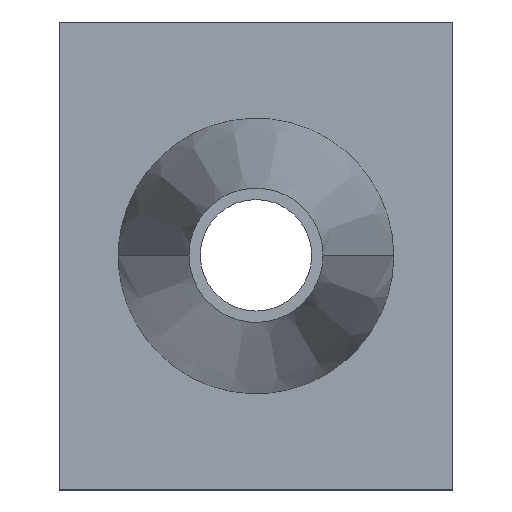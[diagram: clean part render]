
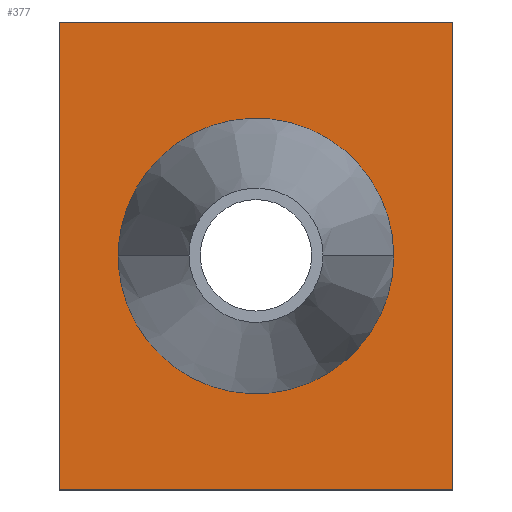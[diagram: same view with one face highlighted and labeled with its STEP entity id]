
A CAD part, top view. The second image highlights one B-rep face of the part: STEP entity #377.
In plain terms, the highlighted planar face has unit normal (0, 0, 1).
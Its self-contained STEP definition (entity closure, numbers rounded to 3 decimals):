
#167=CARTESIAN_POINT('Vertex',(0.,126.,3.)) ;
#174=CARTESIAN_POINT('Vertex',(0.,0.,3.)) ;
#177=CARTESIAN_POINT('Line Origine',(0.,63.,3.)) ;
#198=CARTESIAN_POINT('Vertex',(106.,126.,3.)) ;
#201=CARTESIAN_POINT('Line Origine',(53.,126.,3.)) ;
#222=CARTESIAN_POINT('Vertex',(106.,0.,3.)) ;
#225=CARTESIAN_POINT('Line Origine',(106.,63.,3.)) ;
#242=CARTESIAN_POINT('Line Origine',(53.,0.,3.)) ;
#324=CARTESIAN_POINT('Axis2P3D Location',(0.,0.,3.)) ;
#336=CARTESIAN_POINT('Control Point',(90.09,63.,3.)) ;
#337=CARTESIAN_POINT('Control Point',(90.09,68.982,3.)) ;
#338=CARTESIAN_POINT('Control Point',(88.883,74.965,3.)) ;
#339=CARTESIAN_POINT('Control Point',(86.469,80.623,3.)) ;
#340=CARTESIAN_POINT('Control Point',(79.501,90.645,3.)) ;
#341=CARTESIAN_POINT('Control Point',(69.194,97.184,3.)) ;
#342=CARTESIAN_POINT('Control Point',(63.438,99.357,3.)) ;
#343=CARTESIAN_POINT('Control Point',(51.38,101.262,3.)) ;
#344=CARTESIAN_POINT('Control Point',(39.526,98.345,3.)) ;
#345=CARTESIAN_POINT('Control Point',(33.974,95.693,3.)) ;
#346=CARTESIAN_POINT('Control Point',(24.766,88.693,3.)) ;
#347=CARTESIAN_POINT('Control Point',(18.81,78.832,3.)) ;
#348=CARTESIAN_POINT('Control Point',(16.877,73.709,3.)) ;
#349=CARTESIAN_POINT('Control Point',(15.91,68.355,3.)) ;
#350=CARTESIAN_POINT('Control Point',(15.91,63.,3.)) ;
#351=CARTESIAN_POINT('Vertex',(90.09,63.,3.)) ;
#353=CARTESIAN_POINT('Vertex',(15.91,63.,3.)) ;
#357=CARTESIAN_POINT('Control Point',(90.09,63.,3.)) ;
#358=CARTESIAN_POINT('Control Point',(90.09,57.018,3.)) ;
#359=CARTESIAN_POINT('Control Point',(88.883,51.035,3.)) ;
#360=CARTESIAN_POINT('Control Point',(86.469,45.377,3.)) ;
#361=CARTESIAN_POINT('Control Point',(79.501,35.355,3.)) ;
#362=CARTESIAN_POINT('Control Point',(69.194,28.816,3.)) ;
#363=CARTESIAN_POINT('Control Point',(63.438,26.643,3.)) ;
#364=CARTESIAN_POINT('Control Point',(51.38,24.738,3.)) ;
#365=CARTESIAN_POINT('Control Point',(39.526,27.655,3.)) ;
#366=CARTESIAN_POINT('Control Point',(33.974,30.307,3.)) ;
#367=CARTESIAN_POINT('Control Point',(24.766,37.307,3.)) ;
#368=CARTESIAN_POINT('Control Point',(18.81,47.168,3.)) ;
#369=CARTESIAN_POINT('Control Point',(16.877,52.291,3.)) ;
#370=CARTESIAN_POINT('Control Point',(15.91,57.645,3.)) ;
#371=CARTESIAN_POINT('Control Point',(15.91,63.,3.)) ;
#178=DIRECTION('Vector Direction',(0.,1.,0.)) ;
#202=DIRECTION('Vector Direction',(-1.,0.,0.)) ;
#226=DIRECTION('Vector Direction',(0.,1.,0.)) ;
#243=DIRECTION('Vector Direction',(1.,0.,0.)) ;
#325=DIRECTION('Axis2P3D Direction',(0.,0.,1.)) ;
#326=DIRECTION('Axis2P3D XDirection',(1.,0.,0.)) ;
#327=AXIS2_PLACEMENT_3D('Plane Axis2P3D',#324,#325,#326) ;
#330=ORIENTED_EDGE('',*,*,#181,.F.) ;
#331=ORIENTED_EDGE('',*,*,#246,.T.) ;
#332=ORIENTED_EDGE('',*,*,#229,.T.) ;
#333=ORIENTED_EDGE('',*,*,#205,.T.) ;
#374=ORIENTED_EDGE('',*,*,#355,.F.) ;
#375=ORIENTED_EDGE('',*,*,#372,.T.) ;
#376=FACE_BOUND('',#373,.T.) ;
#179=VECTOR('Line Direction',#178,1.) ;
#203=VECTOR('Line Direction',#202,1.) ;
#227=VECTOR('Line Direction',#226,1.) ;
#244=VECTOR('Line Direction',#243,1.) ;
#377=ADVANCED_FACE('PartBody',(#334,#376),#328,.T.) ;
#335=B_SPLINE_CURVE_WITH_KNOTS('',5,(#336,#337,#338,#339,#340,#341,#342,#343,#344,#345,#346,#347,#348,#349,#350),.UNSPECIFIED.,.F.,.U.,(6,3,3,3,6),(0.,32.266,64.536,96.806,125.686),.UNSPECIFIED.) ;
#356=B_SPLINE_CURVE_WITH_KNOTS('',5,(#357,#358,#359,#360,#361,#362,#363,#364,#365,#366,#367,#368,#369,#370,#371),.UNSPECIFIED.,.F.,.U.,(6,3,3,3,6),(0.,32.266,64.536,96.806,125.686),.UNSPECIFIED.) ;
#181=EDGE_CURVE('',#175,#168,#180,.T.) ;
#205=EDGE_CURVE('',#199,#168,#204,.T.) ;
#229=EDGE_CURVE('',#223,#199,#228,.T.) ;
#246=EDGE_CURVE('',#175,#223,#245,.T.) ;
#355=EDGE_CURVE('',#352,#354,#335,.T.) ;
#372=EDGE_CURVE('',#352,#354,#356,.T.) ;
#329=EDGE_LOOP('',(#330,#331,#332,#333)) ;
#373=EDGE_LOOP('',(#374,#375)) ;
#334=FACE_OUTER_BOUND('',#329,.T.) ;
#180=LINE('Line',#177,#179) ;
#204=LINE('Line',#201,#203) ;
#228=LINE('Line',#225,#227) ;
#245=LINE('Line',#242,#244) ;
#328=PLANE('',#327) ;
#168=VERTEX_POINT('',#167) ;
#175=VERTEX_POINT('',#174) ;
#199=VERTEX_POINT('',#198) ;
#223=VERTEX_POINT('',#222) ;
#352=VERTEX_POINT('',#351) ;
#354=VERTEX_POINT('',#353) ;
